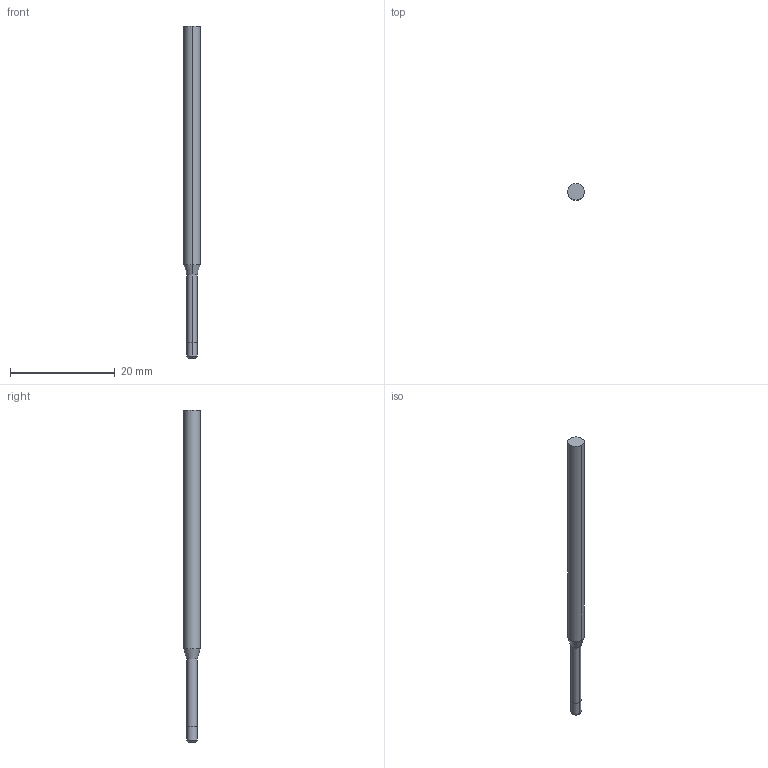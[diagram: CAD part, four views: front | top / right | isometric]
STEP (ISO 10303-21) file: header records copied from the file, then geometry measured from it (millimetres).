
FILE_DESCRIPTION((' '),'2;1');
FILE_NAME( '3MVS0781R.015N8AH.stp', '2026-01-21T19:09:11', (' '), ('--- Datakit www.datakit.com---'), ' Datakit CrossCadWare V2025.4 Sep 19 2025', 'Mastercam 2027', ' ');
FILE_SCHEMA(('AUTOMOTIVE_DESIGN { 1 0 10303 214 1 1 1 1 }'));
Length unit declared in the file: inch
Products named in the file (1): 3MVS0781R
Bounding box: 3.17 x 3.17 x 63.5 mm (x, y, z)
Volume: 420.9 mm3; surface area: 581 mm2
Topology: 1 solids, 1 shells, 12 faces, 22 edges, 12 vertices
Faces by surface type: cylinder 6, plane 2, torus 2, cone 2
Entity records: 377 total; most frequent: DIRECTION 70, CARTESIAN_POINT 51, ORIENTED_EDGE 44, AXIS2_PLACEMENT_3D 31, EDGE_CURVE 22, CIRCLE 14, VERTEX_POINT 12, EDGE_LOOP 12
